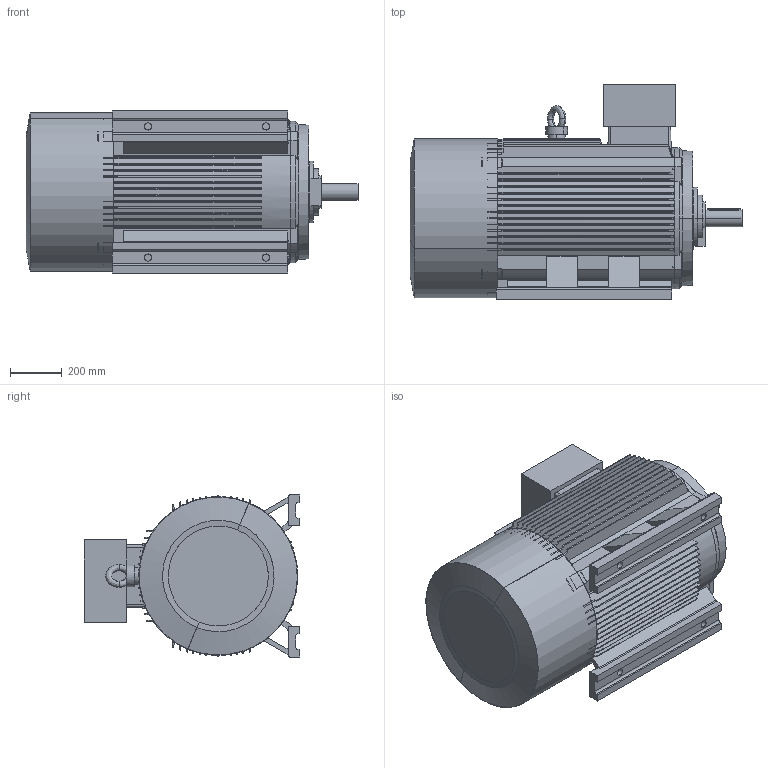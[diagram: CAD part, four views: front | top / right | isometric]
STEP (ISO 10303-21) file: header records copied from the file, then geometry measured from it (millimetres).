
FILE_DESCRIPTION (( 'STEP AP203' ), '1' );
FILE_NAME ('M3-315M-2p-FF-B3.STEP', '2019-07-16T09:57:31', ( '' ), ( '' ), 'SwSTEP 2.0', 'SolidWorks 2012', '' );
FILE_SCHEMA (( 'CONFIG_CONTROL_DESIGN' ));
Length unit declared in the file: millimetre
Products named in the file (7): Y2-315-2Íß¦ð-Ô©Ã_-¼+¤; Y2-315-2ﾃｦﾂ-ｩﾃ_-ｼ+､; M3-315M-2p-FF-B3; 315ﾁｧ+ﾀ_-ｼ+､; +ｷﾎｨB3-315M_-ｼ+､; Y2-315-2.4..6.8ﾀiﾍ_-ｼ+､; Y2-315-2ﾍﾟ_-ｼ+､
Assembly tree (6 placements, depth 2):
  M3-315M-2p-FF-B3
    Y2-315-2Íß¦ð-Ô©Ã_-¼+¤
    Y2-315-2ﾃｦﾂ-ｩﾃ_-ｼ+､
    +ｷﾎｨB3-315M_-ｼ+､
    Y2-315-2ﾍﾟ_-ｼ+､
    Y2-315-2.4..6.8ﾀiﾍ_-ｼ+､
    315ﾁｧ+ﾀ_-ｼ+､
Bounding box: 1286 x 834 x 628 mm (x, y, z)
Volume: 71424863.9 mm3; surface area: 9109681.1 mm2
Topology: 6 solids, 10 shells, 751 faces, 2119 edges, 1398 vertices
Faces by surface type: plane 336, cylinder 258, cone 88, bspline 69
Entity records: 30878 total; most frequent: CARTESIAN_POINT 11271, ORIENTED_EDGE 4238, DIRECTION 3597, EDGE_CURVE 2119, VERTEX_POINT 1398, AXIS2_PLACEMENT_3D 1336, VECTOR 925, LINE 925
